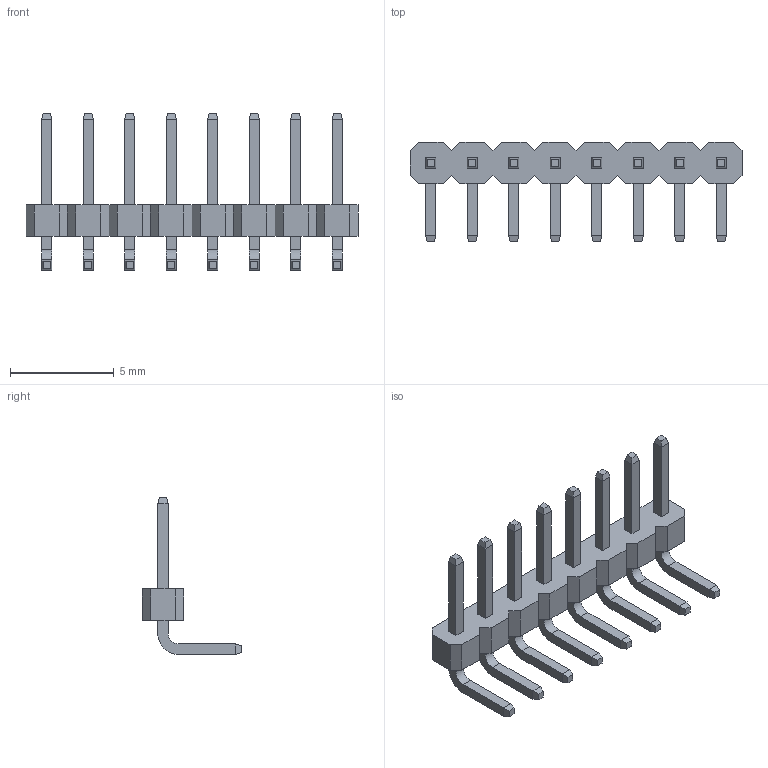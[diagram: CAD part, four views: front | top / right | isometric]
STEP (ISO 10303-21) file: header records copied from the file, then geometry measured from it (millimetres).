
FILE_DESCRIPTION (( 'STEP AP214' ), '1' );
FILE_NAME ('PLS2-8R.STEP', '2015-05-26T06:36:20', ( 'Tester2' ), ( '' ), 'SwSTEP 2.0', 'SolidWorks 2012', '' );
FILE_SCHEMA (( 'AUTOMOTIVE_DESIGN' ));
Length unit declared in the file: millimetre
Products named in the file (1): PLS2-8R
Bounding box: 16 x 4.8 x 7.55 mm (x, y, z)
Volume: 62.4 mm3; surface area: 263.5 mm2
Topology: 1 solids, 1 shells, 228 faces, 566 edges, 356 vertices
Faces by surface type: plane 212, cylinder 16
Entity records: 8540 total; most frequent: CARTESIAN_POINT 1151, ORIENTED_EDGE 1132, DIRECTION 1056, EDGE_CURVE 566, VECTOR 534, LINE 534, VERTEX_POINT 356, AXIS2_PLACEMENT_3D 261
